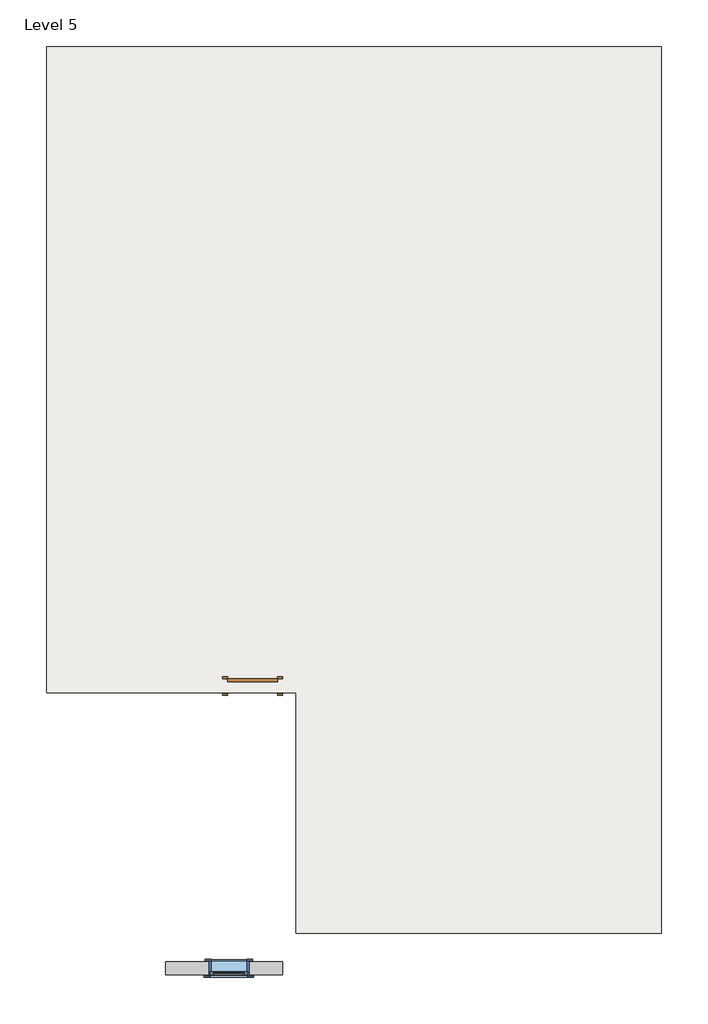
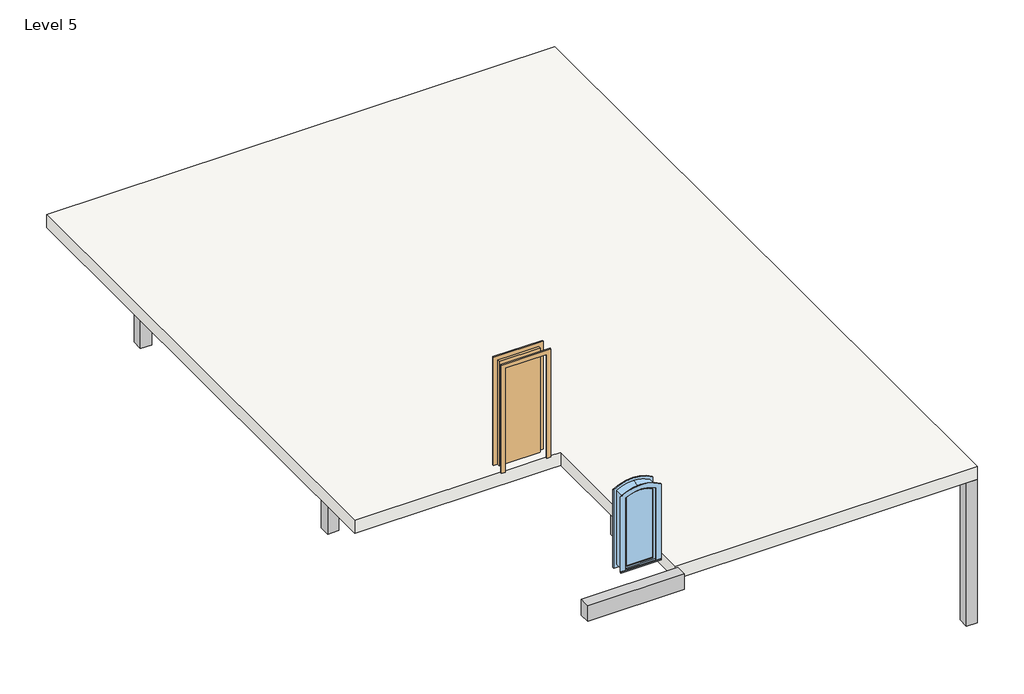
# One storey, incomplete: 12 columns, 1 beam, 1 door, 1 slab, 1 window.
"""IFC4 building model written with IfcOpenShell, lengths in millimetres."""

from ifc_helpers import new_model, si_unit, frame, origin, origin_with_axes, place, context, project, spatial, polyline, outline, extrude, faceted_brep, transform, mapped, element, save
from components import single_flush_300_x_2032_a1484949, archtop_with_trim_600_x_1500_7229f101

model = new_model("IFC4")

# Units and contexts
model_context = context("Model", 3, world=origin())
ifc_project = project(units=[si_unit("LENGTHUNIT", "METRE", prefix="MILLI")], contexts=[model_context])

# Site, building, storey
site = spatial("IfcSite", under=ifc_project)
building = spatial("IfcBuilding", under=site)
storey = spatial("IfcBuildingStorey", under=building, Name="Level 5", Elevation=3048.0)

# Beam
placement = place(None, origin())
element("IfcBeam", 1, ObjectType="Concrete-Rectangular Beam : 203 x 304", at=placement, inside=storey, context=model_context, shape_type="SweptSolid", body=[
    extrude(outline(polyline([(-980.1915209, -6095.8926766), (-980.1915209, -6299.0926766), (-2758.1915209, -6299.0926766), (-2758.1915209, -6095.8926766), (-980.1915209, -6095.8926766)])), frame((0.0, 0.0, 3048.0), z_axis=(0.0, 0.0, 1.0), x_axis=(1.0, 0.0, 0.0)), (0.0, 0.0, 1.0), 304.8),
])

# Columns
element("IfcColumn", 2, ObjectType="Concrete-Square-Column : 203 x 203", at=placement, inside=storey, context=model_context, shape_type="SweptSolid", body=[
    extrude(outline(polyline([(4785.6084791, 7823.3073234), (4785.6084791, 7620.1073234), (4582.4084791, 7620.1073234), (4582.4084791, 7823.3073234), (4785.6084791, 7823.3073234)])), origin_with_axes(), (0.0, 0.0, 1.0), 2794.0),
])
element("IfcColumn", 3, ObjectType="Concrete-Square-Column : 203 x 203", at=placement, inside=storey, context=model_context, shape_type="SweptSolid", body=[
    extrude(outline(polyline([(-2758.1915209, 7823.3073234), (-2758.1915209, 7620.1073234), (-2961.3915209, 7620.1073234), (-2961.3915209, 7823.3073234), (-2758.1915209, 7823.3073234)])), origin_with_axes(), (0.0, 0.0, 1.0), 2794.0),
])
element("IfcColumn", 4, ObjectType="Concrete-Square-Column : 203 x 203", at=placement, inside=storey, context=model_context, shape_type="SweptSolid", body=[
    extrude(outline(polyline([(1128.0084791, 7823.3073234), (1128.0084791, 7620.1073234), (924.8084791, 7620.1073234), (924.8084791, 7823.3073234), (1128.0084791, 7823.3073234)])), origin_with_axes(), (0.0, 0.0, 1.0), 2794.0),
])
element("IfcColumn", 5, ObjectType="Concrete-Square-Column : 203 x 203", at=placement, inside=storey, context=model_context, shape_type="Brep", body=[
    faceted_brep([(1102.6084791, 5513.4948234, 0.0), (1102.6084791, 5716.6948234, 0.0), (1102.6084791, 5716.6948234, 2743.2), (1102.6084791, 5716.6948234, 2794.0), (1102.6084791, 5513.4948234, 2794.0), (1102.6084791, 5513.4948234, 2743.2), (899.4084791, 5513.4948234, 0.0), (899.4084791, 5513.4948234, 2794.0), (899.4084791, 5513.4948234, 2743.2), (899.4084791, 5716.6948234, 0.0), (899.4084791, 5716.6948234, 2794.0), (899.4084791, 5716.6948234, 2743.2)], [[[0, 1, 2, 3, 4, 5]], [[6, 0, 5, 4, 7, 8]], [[9, 6, 8, 7, 10, 11]], [[1, 9, 11, 10, 3, 2]], [[1, 0, 6, 9]], [[4, 3, 10, 7]]]),
])
element("IfcColumn", 6, ObjectType="Concrete-Square-Column : 203 x 203", at=placement, inside=storey, context=model_context, shape_type="Brep", body=[
    faceted_brep([(2347.2084791, 3784.7073234, 0.0), (2347.2084791, 3987.9073234, 0.0), (2347.2084791, 3987.9073234, 2743.2), (2347.2084791, 3987.9073234, 2794.0), (2347.2084791, 3810.1073234, 2794.0), (2347.2084791, 3784.7073234, 2794.0), (2144.0084791, 3784.7073234, 0.0), (2144.0084791, 3784.7073234, 2794.0), (2144.0084791, 3987.9073234, 0.0), (2144.0084791, 3810.1073234, 2794.0), (2144.0084791, 3987.9073234, 2794.0), (2144.0084791, 3987.9073234, 2743.2)], [[[0, 1, 2, 3, 4, 5]], [[6, 0, 5, 7]], [[8, 6, 7, 9, 10, 11]], [[1, 8, 11, 10, 3, 2]], [[1, 0, 6, 8]], [[5, 4, 3, 10, 9, 7]]]),
])
element("IfcColumn", 7, ObjectType="Concrete-Square-Column : 203 x 203", at=placement, inside=storey, context=model_context, shape_type="SweptSolid", body=[
    extrude(outline(polyline([(4785.6084791, 4013.3073234), (4785.6084791, 3810.1073234), (4582.4084791, 3810.1073234), (4582.4084791, 4013.3073234), (4785.6084791, 4013.3073234)])), origin_with_axes(), (0.0, 0.0, 1.0), 2794.0),
])
element("IfcColumn", 8, ObjectType="Concrete-Square-Column : 203 x 203", at=placement, inside=storey, context=model_context, shape_type="SweptSolid", body=[
    extrude(outline(polyline([(1102.6084791, 1881.2948234), (1102.6084791, 1678.0948234), (899.4084791, 1678.0948234), (899.4084791, 1881.2948234), (1102.6084791, 1881.2948234)])), origin_with_axes(), (0.0, 0.0, 1.0), 2794.0),
])
element("IfcColumn", 9, ObjectType="Concrete-Square-Column : 203 x 203", at=placement, inside=storey, context=model_context, shape_type="SweptSolid", body=[
    extrude(outline(polyline([(-2758.1915209, 1854.3073234), (-2758.1915209, 1651.1073234), (-2961.3915209, 1651.1073234), (-2961.3915209, 1854.3073234), (-2758.1915209, 1854.3073234)])), origin_with_axes(), (0.0, 0.0, 1.0), 2794.0),
])
element("IfcColumn", 10, ObjectType="Concrete-Square-Column : 203 x 203", at=placement, inside=storey, context=model_context, shape_type="SweptSolid", body=[
    extrude(outline(polyline([(1153.4084791, -609.4926766), (1153.4084791, -812.6926766), (950.2084791, -812.6926766), (950.2084791, -609.4926766), (1153.4084791, -609.4926766)])), origin_with_axes(), (0.0, 0.0, 1.0), 2794.0),
])
element("IfcColumn", 11, ObjectType="Concrete-Square-Column : 203 x 203", at=placement, inside=storey, context=model_context, shape_type="SweptSolid", body=[
    extrude(outline(polyline([(4785.6084791, -584.0926766), (4785.6084791, -787.2926766), (4582.4084791, -787.2926766), (4582.4084791, -584.0926766), (4785.6084791, -584.0926766)])), origin_with_axes(), (0.0, 0.0, 1.0), 2794.0),
])
element("IfcColumn", 12, ObjectType="Concrete-Square-Column : 203 x 203", at=placement, inside=storey, context=model_context, shape_type="Brep", body=[
    faceted_brep([(4785.6084791, 3810.1073234, 0.0), (4785.6084791, 4013.3073234, 0.0), (4785.6084791, 4013.3073234, 2743.2), (4785.6084791, 4013.3073234, 2794.0), (4785.6084791, 3810.1073234, 2794.0), (4785.6084791, 3810.1073234, 2743.2), (4582.4084791, 3810.1073234, 0.0), (4582.4084791, 3810.1073234, 2794.0), (4582.4084791, 3810.1073234, 2743.2), (4582.4084791, 4013.3073234, 0.0), (4582.4084791, 4013.3073234, 2794.0), (4582.4084791, 4013.3073234, 2743.2)], [[[0, 1, 2, 3, 4, 5]], [[6, 0, 5, 4, 7, 8]], [[9, 6, 8, 7, 10, 11]], [[1, 9, 11, 10, 3, 2]], [[1, 0, 6, 9]], [[4, 3, 10, 7]]]),
])
element("IfcColumn", 13, ObjectType="Concrete-Square-Column : 203 x 203", at=placement, inside=storey, context=model_context, shape_type="SweptSolid", body=[
    extrude(outline(polyline([(4785.6084791, -5460.8926766), (4785.6084791, -5664.0926766), (4582.4084791, -5664.0926766), (4582.4084791, -5460.8926766), (4785.6084791, -5460.8926766)])), origin_with_axes(), (0.0, 0.0, 1.0), 2794.0),
])

# Door
single_flush_300_x_2032_shape = single_flush_300_x_2032_a1484949(model_context)
element("IfcDoor", 14, ObjectType="Single-Flush : 300 x 2032", at=placement, inside=storey, context=model_context, shape_type="MappedRepresentation", body=[
    mapped(single_flush_300_x_2032_shape, transform((-1437.3915209, -1904.8926766, 3048.0), x_axis=(1.0, 0.0, 0.0), y_axis=(0.0, 1.0, 0.0), z_axis=(0.0, 0.0, 1.0))),
])

# Slab
element("IfcSlab", 15, ObjectType="8\" concrete generic floor", at=placement, inside=storey, context=model_context, shape_type="Brep", body=[
    faceted_brep([(-4574.2915209, 7823.3073234, 2794.0), (-2961.3915209, 7823.3073234, 2794.0), (-2758.1915209, 7823.3073234, 2794.0), (-1005.5915209, 7823.3073234, 2794.0), (899.4084791, 7823.3073234, 2794.0), (924.8084791, 7823.3073234, 2794.0), (1128.0084791, 7823.3073234, 2794.0), (4582.4084791, 7823.3073234, 2794.0), (4785.6084791, 7823.3073234, 2794.0), (4785.6084791, 7620.1073234, 2794.0), (4785.6084791, 4013.3073234, 2794.0), (4785.6084791, 3810.1073234, 2794.0), (4785.6084791, 1854.3073234, 2794.0), (4785.6084791, -584.0926766, 2794.0), (4785.6084791, -787.2926766, 2794.0), (4785.6084791, -5460.8926766, 2794.0), (4785.6084791, -5664.0926766, 2794.0), (4582.4084791, -5664.0926766, 2794.0), (-776.9915209, -5664.0926766, 2794.0), (-776.9915209, -5460.8926766, 2794.0), (-776.9915209, -2006.4926766, 2794.0), (-980.1915209, -2006.4926766, 2794.0), (-2758.1915209, -2006.4926766, 2794.0), (-2961.3915209, -2006.4926766, 2794.0), (-4574.2915209, -2006.4926766, 2794.0), (-4574.2915209, 7823.3073234, 3048.0), (-4574.2915209, -2006.4926766, 3048.0), (-2961.3915209, -2006.4926766, 3048.0), (-2758.1915209, -2006.4926766, 3048.0), (-980.1915209, -2006.4926766, 3048.0), (-776.9915209, -2006.4926766, 3048.0), (-776.9915209, -5664.0926766, 3048.0), (4785.6084791, -5664.0926766, 3048.0), (4785.6084791, 7823.3073234, 3048.0)], [[[0, 1, 2, 3, 4, 5, 6, 7, 8, 9, 10, 11, 12, 13, 14, 15, 16, 17, 18, 19, 20, 21, 22, 23, 24]], [[25, 26, 27, 28, 29, 30, 31, 32, 33]], [[8, 7, 6, 5, 4, 3, 2, 1, 0, 25, 33]], [[16, 15, 14, 13, 12, 11, 10, 9, 8, 33, 32]], [[18, 17, 16, 32, 31]], [[20, 19, 18, 31, 30]], [[24, 23, 22, 21, 20, 30, 29, 28, 27, 26]], [[0, 24, 26, 25]]]),
])

# Window
archtop_with_trim_600_x_1500_shape = archtop_with_trim_600_x_1500_7229f101(model_context)
element("IfcWindow", 16, ObjectType="Archtop with Trim : 600 x 1500", at=placement, inside=storey, context=model_context, shape_type="MappedRepresentation", body=[
    mapped(archtop_with_trim_600_x_1500_shape, transform((-1785.720026, -6197.4926766, 3194.4833231), x_axis=(-1.0, 0.0, 0.0), y_axis=(0.0, -1.0, 0.0), z_axis=(0.0, 0.0, 1.0))),
])

save(model, "model.ifc")
